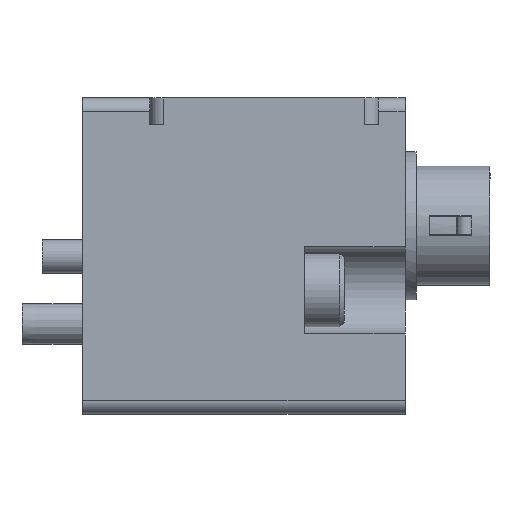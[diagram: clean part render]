
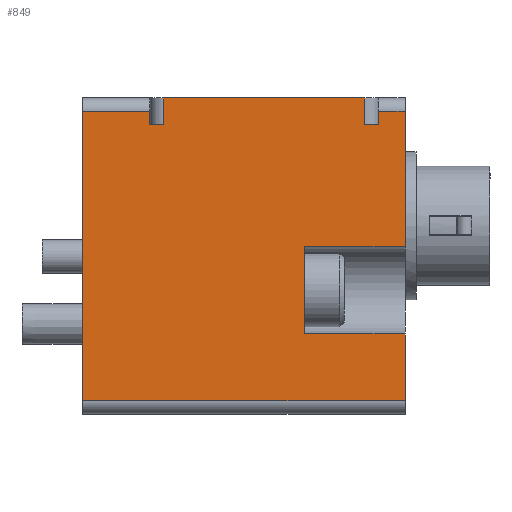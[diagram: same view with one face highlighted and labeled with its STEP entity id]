
A CAD part, left-side view. The second image highlights one B-rep face of the part: STEP entity #849.
In plain terms, the highlighted planar face has unit normal (-1, 0, 0).
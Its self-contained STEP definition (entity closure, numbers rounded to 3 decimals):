
#849=ADVANCED_FACE('',(#2472),#2473,.F.);
#2472=FACE_OUTER_BOUND('',#4927,.T.);
#2473=PLANE('',#4928);
#4927=EDGE_LOOP('',(#8011,#8012,#8013,#8014,#8015,#8016,#8017,#8018,#8019,#8020,#8021,#8022,#8023,#8024,#8025,#8026));
#4928=AXIS2_PLACEMENT_3D('',#8027,#8028,#8029);
#8011=ORIENTED_EDGE('',*,*,#12691,.T.);
#8012=ORIENTED_EDGE('',*,*,#12692,.T.);
#8013=ORIENTED_EDGE('',*,*,#12693,.T.);
#8014=ORIENTED_EDGE('',*,*,#12694,.F.);
#8015=ORIENTED_EDGE('',*,*,#12695,.T.);
#8016=ORIENTED_EDGE('',*,*,#12696,.T.);
#8017=ORIENTED_EDGE('',*,*,#12697,.F.);
#8018=ORIENTED_EDGE('',*,*,#12698,.T.);
#8019=ORIENTED_EDGE('',*,*,#12699,.T.);
#8020=ORIENTED_EDGE('',*,*,#12700,.T.);
#8021=ORIENTED_EDGE('',*,*,#12701,.T.);
#8022=ORIENTED_EDGE('',*,*,#12702,.F.);
#8023=ORIENTED_EDGE('',*,*,#12703,.T.);
#8024=ORIENTED_EDGE('',*,*,#12644,.T.);
#8025=ORIENTED_EDGE('',*,*,#12688,.F.);
#8026=ORIENTED_EDGE('',*,*,#12704,.T.);
#8027=CARTESIAN_POINT('',(-16.0,-22.0,-6.7));
#8028=DIRECTION('',(1.0,0.0,0.0));
#8029=DIRECTION('',(0.0,1.0,0.0));
#12644=EDGE_CURVE('',#14003,#14007,#14009,.T.);
#12688=EDGE_CURVE('',#14090,#14007,#14092,.T.);
#12691=EDGE_CURVE('',#14095,#14096,#14097,.T.);
#12692=EDGE_CURVE('',#14096,#14098,#14099,.T.);
#12693=EDGE_CURVE('',#14098,#14100,#14101,.T.);
#12694=EDGE_CURVE('',#14102,#14100,#14103,.T.);
#12695=EDGE_CURVE('',#14102,#14104,#14105,.T.);
#12696=EDGE_CURVE('',#14104,#14106,#14107,.T.);
#12697=EDGE_CURVE('',#14108,#14106,#14109,.T.);
#12698=EDGE_CURVE('',#14108,#14110,#14111,.T.);
#12699=EDGE_CURVE('',#14110,#14112,#14113,.T.);
#12700=EDGE_CURVE('',#14112,#14114,#14115,.T.);
#12701=EDGE_CURVE('',#14114,#14116,#14117,.T.);
#12702=EDGE_CURVE('',#14118,#14116,#14119,.T.);
#12703=EDGE_CURVE('',#14118,#14003,#14120,.T.);
#12704=EDGE_CURVE('',#14090,#14095,#14121,.T.);
#14003=VERTEX_POINT('',#15926);
#14007=VERTEX_POINT('',#15931);
#14009=LINE('',#15933,#15934);
#14090=VERTEX_POINT('',#16047);
#14092=LINE('',#16049,#16050);
#14095=VERTEX_POINT('',#16054);
#14096=VERTEX_POINT('',#16055);
#14097=LINE('',#16056,#16057);
#14098=VERTEX_POINT('',#16058);
#14099=LINE('',#16059,#16060);
#14100=VERTEX_POINT('',#16061);
#14101=LINE('',#16062,#16063);
#14102=VERTEX_POINT('',#16064);
#14103=LINE('',#16065,#16066);
#14104=VERTEX_POINT('',#16067);
#14105=LINE('',#16068,#16069);
#14106=VERTEX_POINT('',#16070);
#14107=LINE('',#16071,#16072);
#14108=VERTEX_POINT('',#16073);
#14109=LINE('',#16074,#16075);
#14110=VERTEX_POINT('',#16076);
#14111=LINE('',#16077,#16078);
#14112=VERTEX_POINT('',#16079);
#14113=LINE('',#16080,#16081);
#14114=VERTEX_POINT('',#16082);
#14115=LINE('',#16083,#16084);
#14116=VERTEX_POINT('',#16085);
#14117=LINE('',#16086,#16087);
#14118=VERTEX_POINT('',#16088);
#14119=LINE('',#16089,#16090);
#14120=LINE('',#16091,#16092);
#14121=LINE('',#16093,#16094);
#15926=CARTESIAN_POINT('',(-16.0,-21.0,14.8));
#15931=CARTESIAN_POINT('',(-16.0,-21.0,16.8));
#15933=CARTESIAN_POINT('',(-16.0,-21.0,14.8));
#15934=VECTOR('',#18448,1.0);
#16047=CARTESIAN_POINT('',(-16.0,-6.,16.8));
#16049=CARTESIAN_POINT('',(-16.0,-5.,16.8));
#16050=VECTOR('',#18508,1.0);
#16054=CARTESIAN_POINT('',(-16.0,-6.,14.8));
#16055=CARTESIAN_POINT('',(-16.0,-5.0,14.8));
#16056=CARTESIAN_POINT('',(-16.0,-22.0,14.8));
#16057=VECTOR('',#18510,1.0);
#16058=CARTESIAN_POINT('',(-16.0,-5.0,15.8));
#16059=CARTESIAN_POINT('',(-16.0,-5.0,-6.7));
#16060=VECTOR('',#18511,1.0);
#16061=CARTESIAN_POINT('',(-16.0,0.0,15.8));
#16062=CARTESIAN_POINT('',(-16.0,-5.0,15.8));
#16063=VECTOR('',#18512,1.0);
#16064=CARTESIAN_POINT('',(-16.0,0.0,-5.7));
#16065=CARTESIAN_POINT('',(-16.0,0.0,-6.7));
#16066=VECTOR('',#18513,1.0);
#16067=CARTESIAN_POINT('',(-16.0,-24.0,-5.7));
#16068=CARTESIAN_POINT('',(-16.0,-22.0,-5.7));
#16069=VECTOR('',#18514,1.0);
#16070=CARTESIAN_POINT('',(-16.0,-24.0,-0.75));
#16071=CARTESIAN_POINT('',(-16.0,-24.0,-6.7));
#16072=VECTOR('',#18515,1.0);
#16073=CARTESIAN_POINT('',(-16.0,-16.5,-0.75));
#16074=CARTESIAN_POINT('',(-16.0,-16.5,-0.75));
#16075=VECTOR('',#18516,1.0);
#16076=CARTESIAN_POINT('',(-16.0,-16.5,5.75));
#16077=CARTESIAN_POINT('',(-16.0,-16.5,-0.75));
#16078=VECTOR('',#18517,1.0);
#16079=CARTESIAN_POINT('',(-16.0,-24.0,5.75));
#16080=CARTESIAN_POINT('',(-16.0,-16.5,5.75));
#16081=VECTOR('',#18518,1.0);
#16082=CARTESIAN_POINT('',(-16.0,-24.0,15.8));
#16083=CARTESIAN_POINT('',(-16.0,-24.0,-6.7));
#16084=VECTOR('',#18519,1.0);
#16085=CARTESIAN_POINT('',(-16.0,-22.0,15.8));
#16086=CARTESIAN_POINT('',(-16.0,-24.0,15.8));
#16087=VECTOR('',#18520,1.0);
#16088=CARTESIAN_POINT('',(-16.0,-22.0,14.8));
#16089=CARTESIAN_POINT('',(-16.0,-22.0,-6.7));
#16090=VECTOR('',#18521,1.0);
#16091=CARTESIAN_POINT('',(-16.0,-22.0,14.8));
#16092=VECTOR('',#18522,1.0);
#16093=CARTESIAN_POINT('',(-16.0,-6.,14.8));
#16094=VECTOR('',#18523,1.0);
#18448=DIRECTION('',(0.0,0.0,1.0));
#18508=DIRECTION('',(0.0,-1.0,0.0));
#18510=DIRECTION('',(0.0,1.0,0.0));
#18511=DIRECTION('',(0.0,0.0,1.0));
#18512=DIRECTION('',(0.0,1.0,0.0));
#18513=DIRECTION('',(0.0,0.0,1.0));
#18514=DIRECTION('',(0.0,-1.0,0.0));
#18515=DIRECTION('',(0.0,0.0,1.0));
#18516=DIRECTION('',(0.0,-1.0,0.0));
#18517=DIRECTION('',(0.0,0.0,1.0));
#18518=DIRECTION('',(0.0,-1.0,0.0));
#18519=DIRECTION('',(0.0,0.0,1.0));
#18520=DIRECTION('',(0.0,1.0,0.0));
#18521=DIRECTION('',(0.0,0.0,1.0));
#18522=DIRECTION('',(0.0,1.0,0.0));
#18523=DIRECTION('',(0.0,0.0,-1.0));
